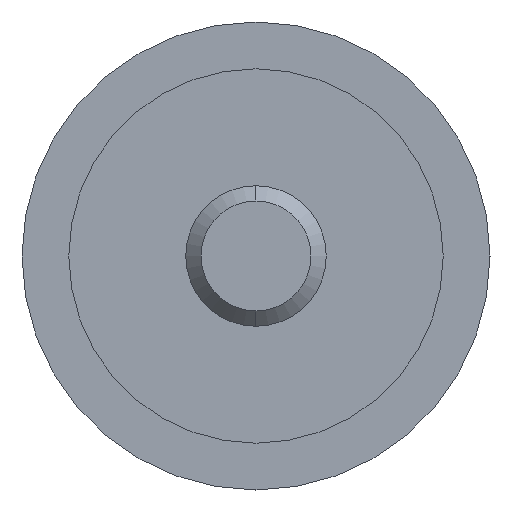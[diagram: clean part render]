
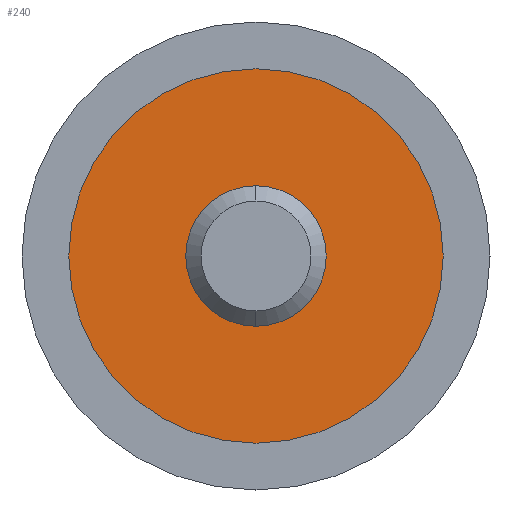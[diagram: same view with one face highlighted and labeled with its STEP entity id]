
A CAD part, left-side view. The second image highlights one B-rep face of the part: STEP entity #240.
In plain terms, the highlighted planar face has unit normal (-1, 0, 0).
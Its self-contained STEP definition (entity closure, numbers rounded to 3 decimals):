
#4 = VERTEX_POINT ( 'NONE', #191 ) ;
#36 = CARTESIAN_POINT ( 'NONE',  ( -4.24, 0., 0. ) ) ;
#51 = EDGE_CURVE ( 'NONE', #559, #528, #497, .T. ) ;
#60 = ORIENTED_EDGE ( 'NONE', *, *, #457, .T. ) ;
#79 = CIRCLE ( 'NONE', #564, 8. ) ;
#107 = DIRECTION ( 'NONE',  ( 1., 0., 0. ) ) ;
#145 = AXIS2_PLACEMENT_3D ( 'NONE', #265, #107, #372 ) ;
#159 = CARTESIAN_POINT ( 'NONE',  ( -4.24, 0., 0. ) ) ;
#183 = VERTEX_POINT ( 'NONE', #305 ) ;
#191 = CARTESIAN_POINT ( 'NONE',  ( -4.24, 0., -8. ) ) ;
#196 = CARTESIAN_POINT ( 'NONE',  ( -4.24, 0., 0. ) ) ;
#205 = DIRECTION ( 'NONE',  ( 0., 0., -1. ) ) ;
#209 = CIRCLE ( 'NONE', #464, 3. ) ;
#212 = AXIS2_PLACEMENT_3D ( 'NONE', #159, #362, #205 ) ;
#215 = PLANE ( 'NONE',  #145 ) ;
#230 = DIRECTION ( 'NONE',  ( 0., 0., -1. ) ) ;
#240 = ADVANCED_FACE ( 'NONE', ( #268, #425 ), #215, .F. ) ;
#265 = CARTESIAN_POINT ( 'NONE',  ( -4.24, 8., 0. ) ) ;
#267 = ORIENTED_EDGE ( 'NONE', *, *, #51, .F. ) ;
#268 = FACE_OUTER_BOUND ( 'NONE', #363, .T. ) ;
#280 = CARTESIAN_POINT ( 'NONE',  ( -4.24, 0., 3. ) ) ;
#297 = EDGE_LOOP ( 'NONE', ( #267, #589 ) ) ;
#305 = CARTESIAN_POINT ( 'NONE',  ( -4.24, 0., 8. ) ) ;
#310 = CARTESIAN_POINT ( 'NONE',  ( -4.24, 0., -3. ) ) ;
#329 = ORIENTED_EDGE ( 'NONE', *, *, #625, .T. ) ;
#362 = DIRECTION ( 'NONE',  ( -1., 0., 0. ) ) ;
#363 = EDGE_LOOP ( 'NONE', ( #60, #329 ) ) ;
#372 = DIRECTION ( 'NONE',  ( 0., 0., -1. ) ) ;
#398 = DIRECTION ( 'NONE',  ( -1., 0., 0. ) ) ;
#403 = DIRECTION ( 'NONE',  ( 0., 0., 1. ) ) ;
#404 = EDGE_CURVE ( 'NONE', #528, #559, #209, .T. ) ;
#405 = DIRECTION ( 'NONE',  ( 0., 0., 1. ) ) ;
#425 = FACE_BOUND ( 'NONE', #297, .T. ) ;
#457 = EDGE_CURVE ( 'NONE', #183, #4, #79, .T. ) ;
#464 = AXIS2_PLACEMENT_3D ( 'NONE', #36, #540, #230 ) ;
#497 = CIRCLE ( 'NONE', #212, 3. ) ;
#504 = CARTESIAN_POINT ( 'NONE',  ( -4.24, 0., 0. ) ) ;
#505 = CIRCLE ( 'NONE', #678, 8. ) ;
#528 = VERTEX_POINT ( 'NONE', #310 ) ;
#540 = DIRECTION ( 'NONE',  ( -1., 0., 0. ) ) ;
#559 = VERTEX_POINT ( 'NONE', #280 ) ;
#564 = AXIS2_PLACEMENT_3D ( 'NONE', #504, #621, #405 ) ;
#589 = ORIENTED_EDGE ( 'NONE', *, *, #404, .F. ) ;
#621 = DIRECTION ( 'NONE',  ( -1., 0., 0. ) ) ;
#625 = EDGE_CURVE ( 'NONE', #4, #183, #505, .T. ) ;
#678 = AXIS2_PLACEMENT_3D ( 'NONE', #196, #398, #403 ) ;
